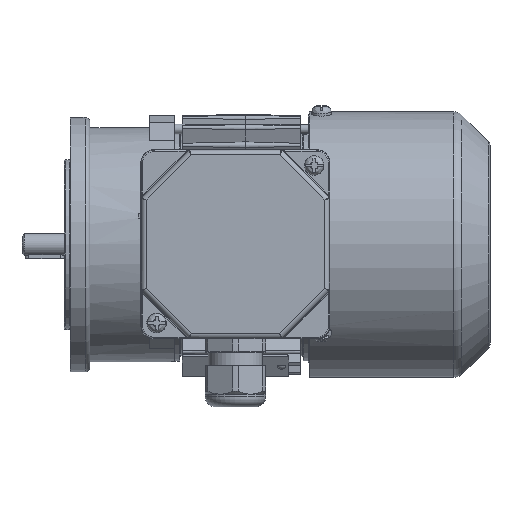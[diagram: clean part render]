
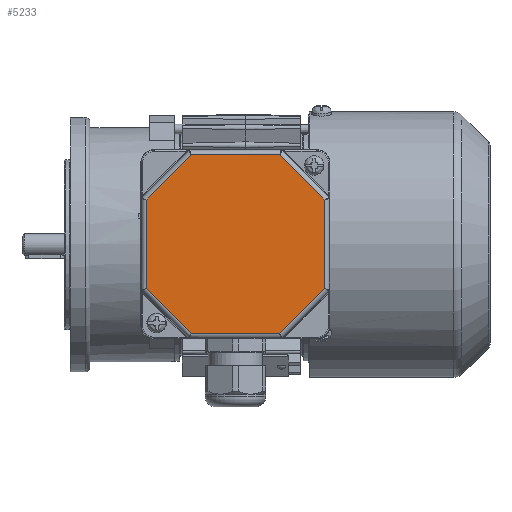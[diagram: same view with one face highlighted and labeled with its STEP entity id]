
A CAD part, top view. The second image highlights one B-rep face of the part: STEP entity #5233.
In plain terms, the highlighted planar face has unit normal (0, 0, 1).
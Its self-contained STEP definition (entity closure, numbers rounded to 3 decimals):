
#5233 = ADVANCED_FACE( '', ( #10444 ), #10445, .T. );
#10444 = FACE_OUTER_BOUND( '', #22401, .T. );
#10445 = PLANE( '', #22402 );
#22401 = EDGE_LOOP( '', ( #36031, #36032, #36033, #36034, #36035, #36036, #36037, #36038 ) );
#22402 = AXIS2_PLACEMENT_3D( '', #36039, #36040, #36041 );
#36031 = ORIENTED_EDGE( '', *, *, #41988, .T. );
#36032 = ORIENTED_EDGE( '', *, *, #41347, .T. );
#36033 = ORIENTED_EDGE( '', *, *, #40231, .T. );
#36034 = ORIENTED_EDGE( '', *, *, #41228, .T. );
#36035 = ORIENTED_EDGE( '', *, *, #41596, .T. );
#36036 = ORIENTED_EDGE( '', *, *, #38314, .T. );
#36037 = ORIENTED_EDGE( '', *, *, #40923, .T. );
#36038 = ORIENTED_EDGE( '', *, *, #40730, .T. );
#36039 = CARTESIAN_POINT( '', ( -39., 39., 12. ) );
#36040 = DIRECTION( '', ( 0., 0., 1. ) );
#36041 = DIRECTION( '', ( 1., 0., 0. ) );
#38314 = EDGE_CURVE( '', #45212, #45213, #45214, .T. );
#40231 = EDGE_CURVE( '', #45367, #46975, #48097, .F. );
#40730 = EDGE_CURVE( '', #45429, #44400, #48722, .T. );
#40923 = EDGE_CURVE( '', #45213, #45429, #48954, .F. );
#41228 = EDGE_CURVE( '', #46975, #49097, #49320, .T. );
#41347 = EDGE_CURVE( '', #45310, #45367, #49457, .T. );
#41596 = EDGE_CURVE( '', #49097, #45212, #49744, .F. );
#41988 = EDGE_CURVE( '', #44400, #45310, #50156, .F. );
#44400 = VERTEX_POINT( '', #54513 );
#45212 = VERTEX_POINT( '', #55978 );
#45213 = VERTEX_POINT( '', #55979 );
#45214 = LINE( '', #55980, #55981 );
#45310 = VERTEX_POINT( '', #56172 );
#45367 = VERTEX_POINT( '', #56240 );
#45429 = VERTEX_POINT( '', #56362 );
#46975 = VERTEX_POINT( '', #59057 );
#48097 = LINE( '', #62227, #62228 );
#48722 = LINE( '', #63489, #63490 );
#48954 = LINE( '', #64278, #64279 );
#49097 = VERTEX_POINT( '', #64569 );
#49320 = LINE( '', #65148, #65149 );
#49457 = LINE( '', #65398, #65399 );
#49744 = LINE( '', #66061, #66062 );
#50156 = LINE( '', #66949, #66950 );
#54513 = CARTESIAN_POINT( '', ( 36.825, -18.255, 12. ) );
#55978 = CARTESIAN_POINT( '', ( -36.825, -18.255, 12. ) );
#55979 = CARTESIAN_POINT( '', ( -18.255, -36.825, 12. ) );
#55980 = CARTESIAN_POINT( '', ( -17.679, -37.401, 12. ) );
#55981 = VECTOR( '', #69462, 1000. );
#56172 = CARTESIAN_POINT( '', ( 36.825, 18.255, 12. ) );
#56240 = CARTESIAN_POINT( '', ( 18.255, 36.825, 12. ) );
#56362 = CARTESIAN_POINT( '', ( 18.255, -36.825, 12. ) );
#59057 = CARTESIAN_POINT( '', ( -18.255, 36.825, 12. ) );
#62227 = CARTESIAN_POINT( '', ( -19.069, 36.825, 12. ) );
#62228 = VECTOR( '', #71876, 1000. );
#63489 = CARTESIAN_POINT( '', ( 37.401, -17.679, 12. ) );
#63490 = VECTOR( '', #72373, 1000. );
#64278 = CARTESIAN_POINT( '', ( 19.069, -36.825, 12. ) );
#64279 = VECTOR( '', #72552, 1000. );
#64569 = CARTESIAN_POINT( '', ( -36.825, 18.255, 12. ) );
#65148 = CARTESIAN_POINT( '', ( -37.401, 17.679, 12. ) );
#65149 = VECTOR( '', #72854, 1000. );
#65398 = CARTESIAN_POINT( '', ( 17.679, 37.401, 12. ) );
#65399 = VECTOR( '', #72960, 1000. );
#66061 = CARTESIAN_POINT( '', ( -36.825, -19.069, 12. ) );
#66062 = VECTOR( '', #73173, 1000. );
#66949 = CARTESIAN_POINT( '', ( 36.825, 19.069, 12. ) );
#66950 = VECTOR( '', #73370, 1000. );
#69462 = DIRECTION( '', ( 0.707, -0.707, 0. ) );
#71876 = DIRECTION( '', ( 1., 0., 0. ) );
#72373 = DIRECTION( '', ( 0.707, 0.707, 0. ) );
#72552 = DIRECTION( '', ( -1., 0., 0. ) );
#72854 = DIRECTION( '', ( -0.707, -0.707, 0. ) );
#72960 = DIRECTION( '', ( -0.707, 0.707, 0. ) );
#73173 = DIRECTION( '', ( 0., 1., 0. ) );
#73370 = DIRECTION( '', ( 0., -1., 0. ) );
